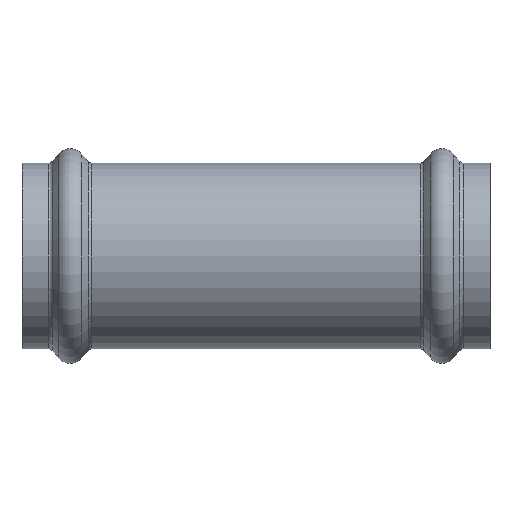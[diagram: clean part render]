
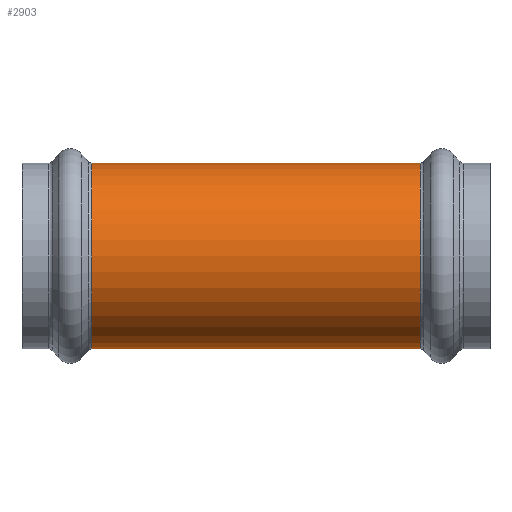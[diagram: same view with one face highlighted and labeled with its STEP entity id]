
A CAD part, front view. The second image highlights one B-rep face of the part: STEP entity #2903.
In plain terms, the highlighted cylindrical face has radius 19.25 mm (diameter 38.5 mm), a partial arc.
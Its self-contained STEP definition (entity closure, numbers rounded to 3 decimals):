
#2 = CYLINDRICAL_SURFACE ( 'NONE', #2862, 19.25 ) ;
#17 = CARTESIAN_POINT ( 'NONE',  ( 34.036, 0., -19.25 ) ) ;
#37 = CARTESIAN_POINT ( 'NONE',  ( 34.036, 0., 0. ) ) ;
#143 = VERTEX_POINT ( 'NONE', #2394 ) ;
#188 = EDGE_CURVE ( 'NONE', #2461, #3631, #275, .T. ) ;
#248 = EDGE_LOOP ( 'NONE', ( #3531, #2819, #3927, #3333 ) ) ;
#275 = LINE ( 'NONE', #2737, #1972 ) ;
#365 = DIRECTION ( 'NONE',  ( 1., 0., 0. ) ) ;
#380 = EDGE_CURVE ( 'NONE', #3241, #143, #4220, .T. ) ;
#381 = DIRECTION ( 'NONE',  ( 0., 0., 1. ) ) ;
#664 = EDGE_CURVE ( 'NONE', #3241, #2461, #2773, .T. ) ;
#874 = FACE_OUTER_BOUND ( 'NONE', #248, .T. ) ;
#945 = CARTESIAN_POINT ( 'NONE',  ( -58.611, 0., 0. ) ) ;
#1077 = EDGE_CURVE ( 'NONE', #3631, #143, #2001, .T. ) ;
#1078 = AXIS2_PLACEMENT_3D ( 'NONE', #37, #2427, #381 ) ;
#1247 = AXIS2_PLACEMENT_3D ( 'NONE', #2415, #365, #2752 ) ;
#1525 = DIRECTION ( 'NONE',  ( -1., 0., 0. ) ) ;
#1972 = VECTOR ( 'NONE', #2763, 1000. ) ;
#2001 = CIRCLE ( 'NONE', #1247, 19.25 ) ;
#2394 = CARTESIAN_POINT ( 'NONE',  ( -34.036, 0., -19.25 ) ) ;
#2415 = CARTESIAN_POINT ( 'NONE',  ( -34.036, 0., 0. ) ) ;
#2427 = DIRECTION ( 'NONE',  ( -1., 0., 0. ) ) ;
#2461 = VERTEX_POINT ( 'NONE', #3816 ) ;
#2737 = CARTESIAN_POINT ( 'NONE',  ( -58.611, 0., 19.25 ) ) ;
#2752 = DIRECTION ( 'NONE',  ( 0., 0., -1. ) ) ;
#2763 = DIRECTION ( 'NONE',  ( -1., 0., 0. ) ) ;
#2773 = CIRCLE ( 'NONE', #1078, 19.25 ) ;
#2819 = ORIENTED_EDGE ( 'NONE', *, *, #664, .T. ) ;
#2862 = AXIS2_PLACEMENT_3D ( 'NONE', #945, #2944, #3305 ) ;
#2903 = ADVANCED_FACE ( 'NONE', ( #874 ), #2, .T. ) ;
#2907 = CARTESIAN_POINT ( 'NONE',  ( -34.036, 0., 19.25 ) ) ;
#2944 = DIRECTION ( 'NONE',  ( -1., 0., 0. ) ) ;
#3241 = VERTEX_POINT ( 'NONE', #17 ) ;
#3305 = DIRECTION ( 'NONE',  ( 0., 0., 1. ) ) ;
#3324 = VECTOR ( 'NONE', #1525, 1000. ) ;
#3333 = ORIENTED_EDGE ( 'NONE', *, *, #1077, .T. ) ;
#3531 = ORIENTED_EDGE ( 'NONE', *, *, #380, .F. ) ;
#3589 = CARTESIAN_POINT ( 'NONE',  ( -58.611, 0., -19.25 ) ) ;
#3631 = VERTEX_POINT ( 'NONE', #2907 ) ;
#3816 = CARTESIAN_POINT ( 'NONE',  ( 34.036, 0., 19.25 ) ) ;
#3927 = ORIENTED_EDGE ( 'NONE', *, *, #188, .T. ) ;
#4220 = LINE ( 'NONE', #3589, #3324 ) ;
